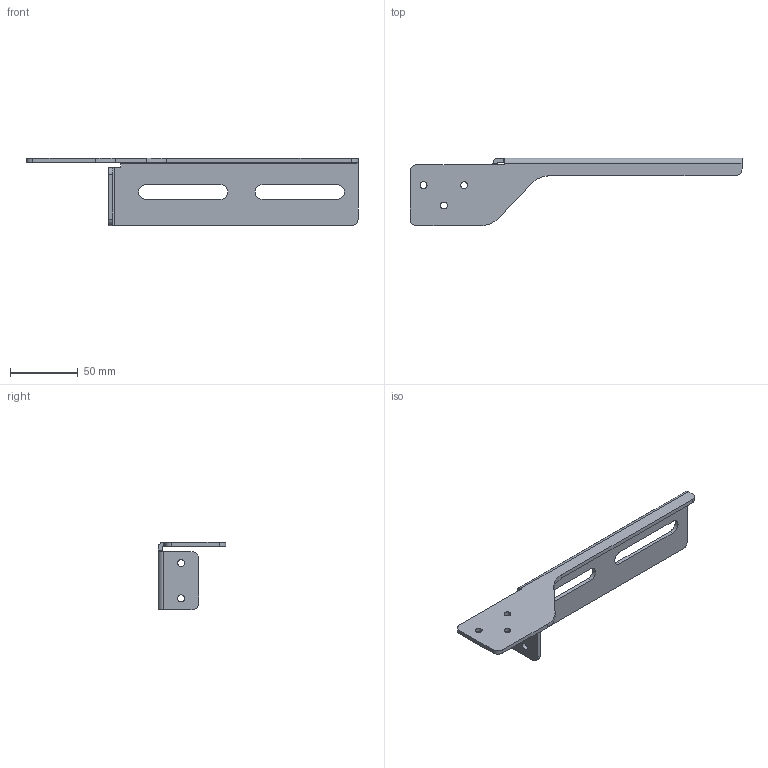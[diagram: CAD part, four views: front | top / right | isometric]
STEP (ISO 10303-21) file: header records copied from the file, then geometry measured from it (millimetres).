
FILE_DESCRIPTION(('STEP AP203'), '1');
FILE_NAME('ÐË050.L.00.001 ëåâûé', '', ('UNSPECIFIED'), ('UNSPECIFIED'), 'ASCON STEP Converter 1.6', 'ASCON Math Kernel', '');
FILE_SCHEMA(('CONFIG_CONTROL_DESIGN'));
Length unit declared in the file: millimetre
Products named in the file (1): 倓050.L.00.001
Bounding box: 245 x 50 x 50 mm (x, y, z)
Volume: 41292.3 mm3; surface area: 30776.7 mm2
Topology: 1 solids, 1 shells, 48 faces, 126 edges, 80 vertices
Faces by surface type: plane 25, cylinder 23
Full cylindrical faces by diameter (mm): 5.1 x5
Entity records: 1906 total; most frequent: DIRECTION 265, CARTESIAN_POINT 250, ORIENTED_EDGE 242, EDGE_CURVE 121, AXIS2_PLACEMENT_3D 95, VERTEX_POINT 80, LINE 75, VECTOR 75
